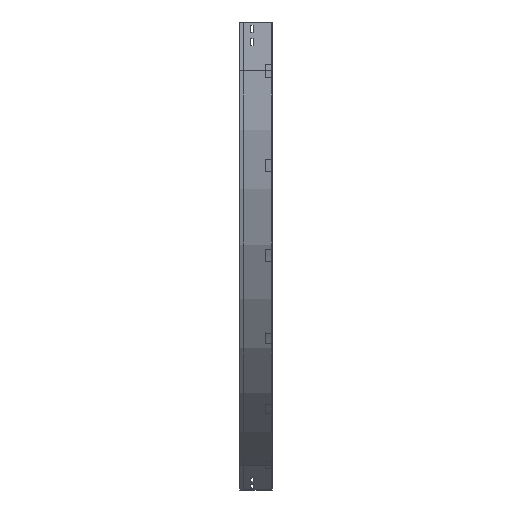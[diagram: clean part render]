
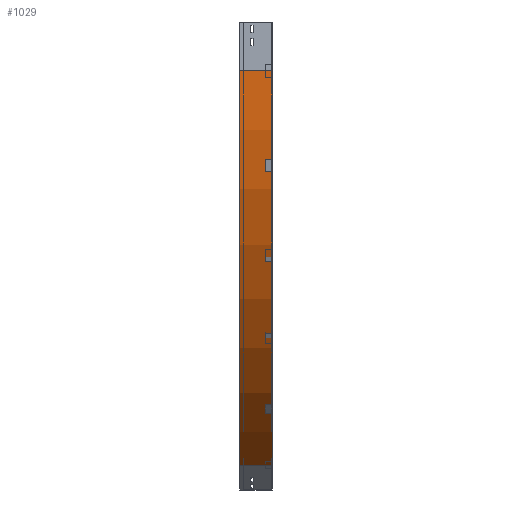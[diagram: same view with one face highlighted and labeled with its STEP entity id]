
A CAD part, left-side view. The second image highlights one B-rep face of the part: STEP entity #1029.
In plain terms, the highlighted cylindrical face has radius 1400 mm (diameter 2800 mm), a partial arc.
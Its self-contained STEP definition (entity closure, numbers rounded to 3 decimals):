
#356 = CARTESIAN_POINT ( 'NONE',  ( 0., 0., -150. ) ) ;
#437 = CARTESIAN_POINT ( 'NONE',  ( 700., 0., -1362.436 ) ) ;
#552 = ORIENTED_EDGE ( 'NONE', *, *, #722, .F. ) ;
#579 = VERTEX_POINT ( 'NONE', #437 ) ;
#622 = CIRCLE ( 'NONE', #3306, 1400. ) ;
#664 = DIRECTION ( 'NONE',  ( 0., 0., -1. ) ) ;
#722 = EDGE_CURVE ( 'NONE', #2161, #579, #2866, .T. ) ;
#738 = CARTESIAN_POINT ( 'NONE',  ( 1400., 100., -150. ) ) ;
#748 = AXIS2_PLACEMENT_3D ( 'NONE', #2264, #2776, #2484 ) ;
#869 = AXIS2_PLACEMENT_3D ( 'NONE', #1567, #1210, #664 ) ;
#969 = LINE ( 'NONE', #2176, #1930 ) ;
#1029 = ADVANCED_FACE ( 'NONE', ( #3339 ), #1249, .T. ) ;
#1150 = EDGE_CURVE ( 'NONE', #3343, #2236, #622, .T. ) ;
#1197 = EDGE_LOOP ( 'NONE', ( #552, #1914, #3093, #1287 ) ) ;
#1210 = DIRECTION ( 'NONE',  ( 0., -1., 0. ) ) ;
#1249 = CYLINDRICAL_SURFACE ( 'NONE', #869, 1400. ) ;
#1287 = ORIENTED_EDGE ( 'NONE', *, *, #1644, .T. ) ;
#1457 = CARTESIAN_POINT ( 'NONE',  ( 700., 0., -1362.436 ) ) ;
#1512 = CARTESIAN_POINT ( 'NONE',  ( 0., 100., -150. ) ) ;
#1567 = CARTESIAN_POINT ( 'NONE',  ( 1400., 0., -150. ) ) ;
#1569 = CARTESIAN_POINT ( 'NONE',  ( 700., 100., -1362.436 ) ) ;
#1644 = EDGE_CURVE ( 'NONE', #2236, #579, #3843, .T. ) ;
#1738 = VECTOR ( 'NONE', #2377, 1000. ) ;
#1914 = ORIENTED_EDGE ( 'NONE', *, *, #2144, .F. ) ;
#1930 = VECTOR ( 'NONE', #2407, 1000. ) ;
#2144 = EDGE_CURVE ( 'NONE', #3343, #2161, #969, .T. ) ;
#2161 = VERTEX_POINT ( 'NONE', #356 ) ;
#2176 = CARTESIAN_POINT ( 'NONE',  ( 0., 0., -150. ) ) ;
#2236 = VERTEX_POINT ( 'NONE', #1569 ) ;
#2264 = CARTESIAN_POINT ( 'NONE',  ( 1400., 0., -150. ) ) ;
#2377 = DIRECTION ( 'NONE',  ( 0., -1., 0. ) ) ;
#2407 = DIRECTION ( 'NONE',  ( 0., -1., 0. ) ) ;
#2484 = DIRECTION ( 'NONE',  ( -1., 0., 0. ) ) ;
#2776 = DIRECTION ( 'NONE',  ( 0., -1., 0. ) ) ;
#2866 = CIRCLE ( 'NONE', #748, 1400. ) ;
#3093 = ORIENTED_EDGE ( 'NONE', *, *, #1150, .T. ) ;
#3306 = AXIS2_PLACEMENT_3D ( 'NONE', #738, #3703, #3448 ) ;
#3339 = FACE_OUTER_BOUND ( 'NONE', #1197, .T. ) ;
#3343 = VERTEX_POINT ( 'NONE', #1512 ) ;
#3448 = DIRECTION ( 'NONE',  ( -1., 0., 0. ) ) ;
#3703 = DIRECTION ( 'NONE',  ( 0., -1., 0. ) ) ;
#3843 = LINE ( 'NONE', #1457, #1738 ) ;
